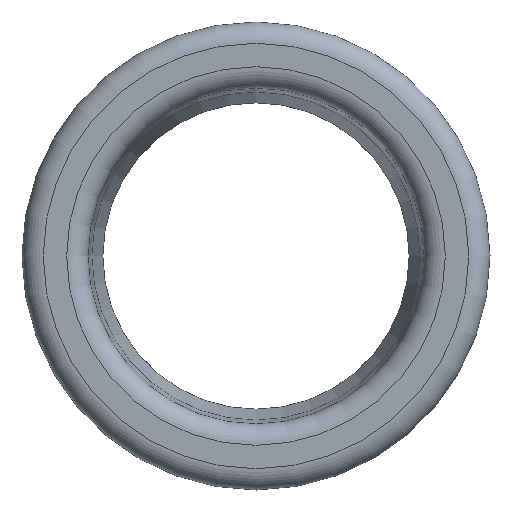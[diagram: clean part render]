
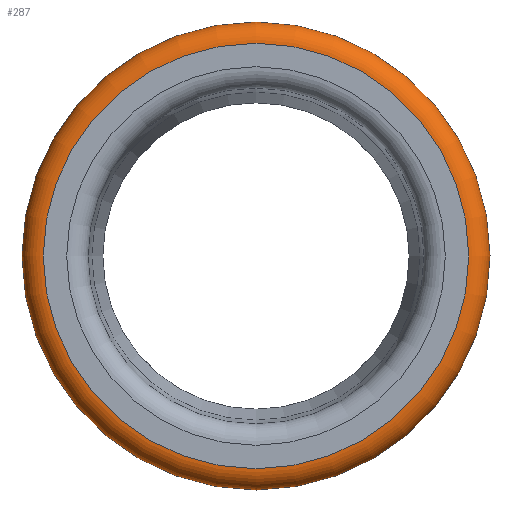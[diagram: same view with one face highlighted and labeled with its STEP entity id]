
A CAD part, left-side view. The second image highlights one B-rep face of the part: STEP entity #287.
In plain terms, the highlighted toroidal (fillet/blend) face has major radius 25 mm and minor radius 2.5 mm.
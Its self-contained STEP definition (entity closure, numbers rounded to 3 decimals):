
#16=TOROIDAL_SURFACE($,#334,25.,2.5);
#52=FACE_BOUND($,#112,.T.);
#70=FACE_OUTER_BOUND($,#111,.T.);
#111=EDGE_LOOP($,(#234));
#112=EDGE_LOOP($,(#235));
#137=CIRCLE($,#333,25.);
#138=CIRCLE($,#335,27.5);
#161=VERTEX_POINT($,#523);
#162=VERTEX_POINT($,#526);
#186=EDGE_CURVE($,#161,#161,#137,.T.);
#187=EDGE_CURVE($,#162,#162,#138,.T.);
#234=ORIENTED_EDGE($,*,*,#186,.T.);
#235=ORIENTED_EDGE($,*,*,#187,.F.);
#287=ADVANCED_FACE($,(#70,#52),#16,.T.);
#333=AXIS2_PLACEMENT_3D($,#524,#421,#422);
#334=AXIS2_PLACEMENT_3D($,#525,#423,#424);
#335=AXIS2_PLACEMENT_3D($,#527,#425,#426);
#421=DIRECTION('center_axis',(1.,0.,0.));
#422=DIRECTION('ref_axis',(0.,0.,-1.));
#423=DIRECTION('center_axis',(1.,0.,0.));
#424=DIRECTION('ref_axis',(0.,0.,-1.));
#425=DIRECTION('center_axis',(1.,0.,0.));
#426=DIRECTION('ref_axis',(0.,0.,-1.));
#523=CARTESIAN_POINT('',(0.,25.,0.));
#524=CARTESIAN_POINT('Origin',(0.,0.,0.));
#525=CARTESIAN_POINT('Origin',(2.5,0.,0.));
#526=CARTESIAN_POINT('',(2.5,27.5,0.));
#527=CARTESIAN_POINT('Origin',(2.5,0.,0.));
